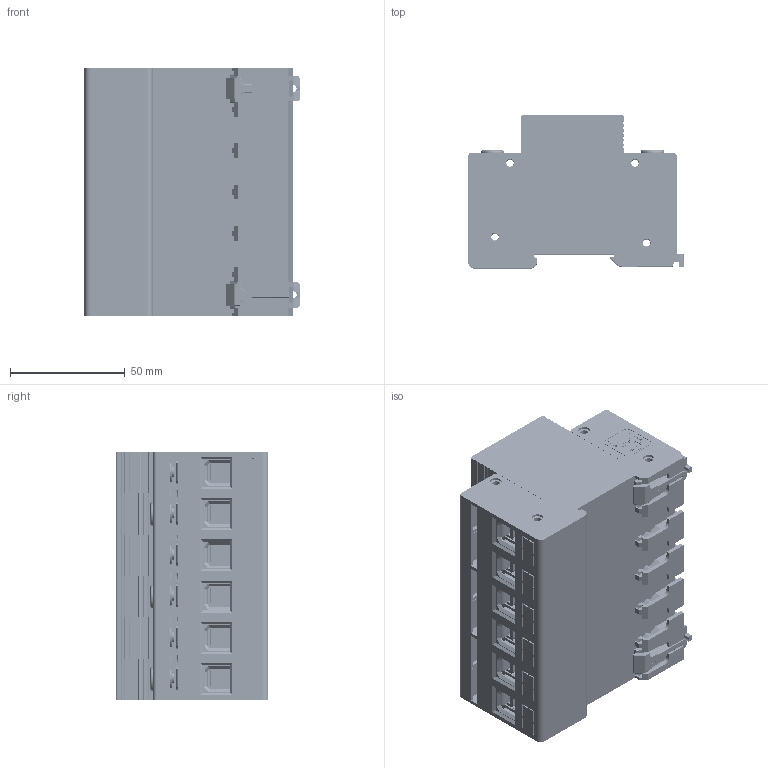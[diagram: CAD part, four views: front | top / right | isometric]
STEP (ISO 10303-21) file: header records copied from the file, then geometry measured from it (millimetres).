
FILE_DESCRIPTION((''),'2;1');
FILE_NAME('TENGEN_TGDY55II_100_385V_3P','2024-01-11T16:50:27',('zhanghualong1'),(''),'CREO PARAMETRIC BY PTC INC, 2020354','CREO PARAMETRIC BY PTC INC, 2020354','');
FILE_SCHEMA(('CONFIG_CONTROL_DESIGN'));
Products named in the file (1): TENGEN_TGDY55II_100_385V_3P
Bounding box: 94.11 x 66.71 x 108 mm (x, y, z)
Volume: 254436.5 mm3; surface area: 288632.4 mm2
Topology: 13 solids, 26 shells, 12196 faces, 34024 edges, 21931 vertices
Faces by surface type: plane 9092, cylinder 2237, cone 260, extrusion 242, torus 195, bspline 121, sphere 49
Entity records: 407374 total; most frequent: CARTESIAN_POINT 93153, ORIENTED_EDGE 67992, DIRECTION 61130, EDGE_CURVE 33996, VECTOR 27996, LINE 27754, VERTEX_POINT 21931, AXIS2_PLACEMENT_3D 16567
